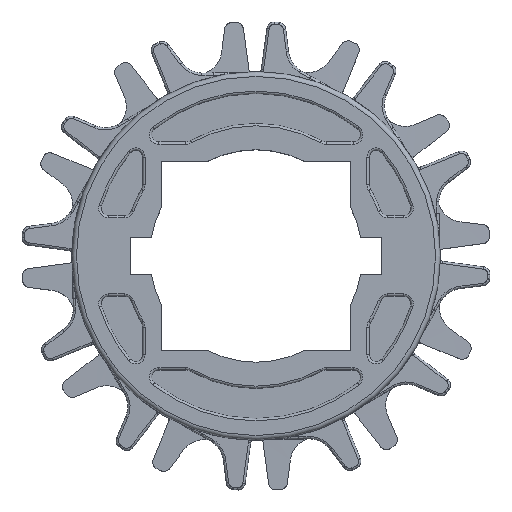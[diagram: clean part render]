
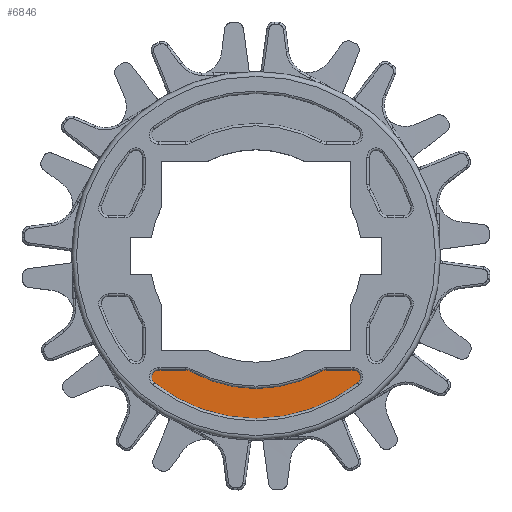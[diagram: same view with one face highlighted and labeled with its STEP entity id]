
A CAD part, top view. The second image highlights one B-rep face of the part: STEP entity #6846.
In plain terms, the highlighted planar face has unit normal (0, 0, 1).
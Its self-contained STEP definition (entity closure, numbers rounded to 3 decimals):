
#5895=FACE_OUTER_BOUND('',#9984,.T.);
#6643=PLANE('',#18692);
#6846=ADVANCED_FACE('',(#5895),#6643,.T.);
#7934=LINE('',#23043,#8318);
#7940=LINE('',#23067,#8324);
#8318=VECTOR('',#19829,1.);
#8324=VECTOR('',#19855,1.);
#9984=EDGE_LOOP('',(#11165,#11166,#11167,#11168,#11169,#11170,#11171,#11172));
#11165=ORIENTED_EDGE('',*,*,#16479,.F.);
#11166=ORIENTED_EDGE('',*,*,#16499,.F.);
#11167=ORIENTED_EDGE('',*,*,#16497,.F.);
#11168=ORIENTED_EDGE('',*,*,#16494,.F.);
#11169=ORIENTED_EDGE('',*,*,#16491,.F.);
#11170=ORIENTED_EDGE('',*,*,#16488,.F.);
#11171=ORIENTED_EDGE('',*,*,#16485,.F.);
#11172=ORIENTED_EDGE('',*,*,#16482,.F.);
#15136=VERTEX_POINT('',#23032);
#15138=VERTEX_POINT('',#23036);
#15140=VERTEX_POINT('',#23041);
#15142=VERTEX_POINT('',#23047);
#15144=VERTEX_POINT('',#23053);
#15146=VERTEX_POINT('',#23059);
#15148=VERTEX_POINT('',#23065);
#15150=VERTEX_POINT('',#23071);
#16479=EDGE_CURVE('',#15138,#15136,#18288,.T.);
#16482=EDGE_CURVE('',#15136,#15140,#7934,.T.);
#16485=EDGE_CURVE('',#15140,#15142,#18290,.T.);
#16488=EDGE_CURVE('',#15142,#15144,#18292,.T.);
#16491=EDGE_CURVE('',#15144,#15146,#18294,.T.);
#16494=EDGE_CURVE('',#15146,#15148,#7940,.T.);
#16497=EDGE_CURVE('',#15148,#15150,#18296,.T.);
#16499=EDGE_CURVE('',#15150,#15138,#18298,.T.);
#18288=CIRCLE('',#18673,1.552);
#18290=CIRCLE('',#18677,2.009);
#18292=CIRCLE('',#18680,28.377);
#18294=CIRCLE('',#18683,2.009);
#18296=CIRCLE('',#18687,1.552);
#18298=CIRCLE('',#18690,34.806);
#18673=AXIS2_PLACEMENT_3D('',#23037,#19823,#19824);
#18677=AXIS2_PLACEMENT_3D('',#23049,#19835,#19836);
#18680=AXIS2_PLACEMENT_3D('',#23055,#19842,#19843);
#18683=AXIS2_PLACEMENT_3D('',#23061,#19849,#19850);
#18687=AXIS2_PLACEMENT_3D('',#23073,#19861,#19862);
#18690=AXIS2_PLACEMENT_3D('',#23076,#19867,#19868);
#18692=AXIS2_PLACEMENT_3D('',#23078,#19871,#19872);
#19823=DIRECTION('',(0.,0.,-1.));
#19824=DIRECTION('',(1.,0.,0.));
#19829=DIRECTION('',(1.,0.,0.));
#19835=DIRECTION('',(0.,0.,-1.));
#19836=DIRECTION('',(1.,0.,0.));
#19842=DIRECTION('',(0.,0.,1.));
#19843=DIRECTION('',(1.,0.,0.));
#19849=DIRECTION('',(0.,0.,-1.));
#19850=DIRECTION('',(1.,0.,0.));
#19855=DIRECTION('',(1.,0.,0.));
#19861=DIRECTION('',(0.,0.,-1.));
#19862=DIRECTION('',(1.,0.,0.));
#19867=DIRECTION('',(0.,0.,-1.));
#19868=DIRECTION('',(1.,0.,0.));
#19871=DIRECTION('',(0.,0.,1.));
#19872=DIRECTION('',(1.,0.,0.));
#23032=CARTESIAN_POINT('',(99.219,-24.409,3.014));
#23036=CARTESIAN_POINT('',(98.249,-27.173,3.014));
#23037=CARTESIAN_POINT('',(99.219,-25.961,3.014));
#23041=CARTESIAN_POINT('',(104.987,-24.409,3.014));
#23043=CARTESIAN_POINT('',(99.219,-24.409,3.014));
#23047=CARTESIAN_POINT('',(105.98,-24.672,3.014));
#23049=CARTESIAN_POINT('',(104.987,-26.418,3.014));
#23053=CARTESIAN_POINT('',(134.02,-24.672,3.014));
#23055=CARTESIAN_POINT('',(120.,0.,3.014));
#23059=CARTESIAN_POINT('',(135.013,-24.409,3.014));
#23061=CARTESIAN_POINT('',(135.013,-26.418,3.014));
#23065=CARTESIAN_POINT('',(140.781,-24.409,3.014));
#23067=CARTESIAN_POINT('',(99.219,-24.409,3.014));
#23071=CARTESIAN_POINT('',(141.751,-27.173,3.014));
#23073=CARTESIAN_POINT('',(140.781,-25.961,3.014));
#23076=CARTESIAN_POINT('',(120.,0.,3.014));
#23078=CARTESIAN_POINT('',(99.219,-25.961,3.014));
